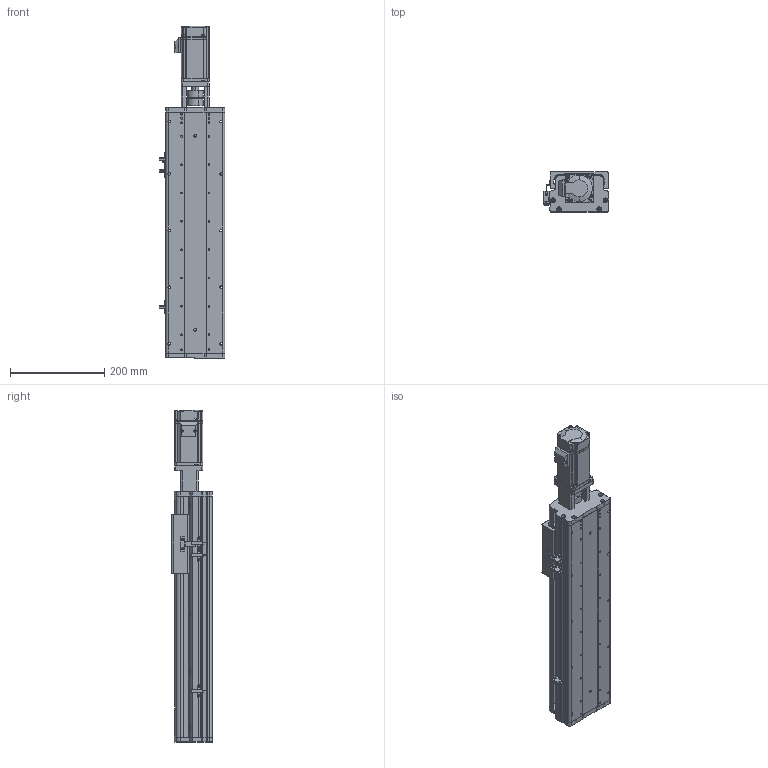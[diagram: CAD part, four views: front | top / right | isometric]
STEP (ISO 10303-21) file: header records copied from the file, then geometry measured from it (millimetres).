
FILE_DESCRIPTION (( 'STEP AP214' ), '1' );
FILE_NAME ('KSD125S-S300-MT-CM.STEP', '2017-08-07T06:37:59', ( '微软用户' ), ( '微软中国' ), 'SwSTEP 2.0', 'SolidWorks 2014', '' );
FILE_SCHEMA (( 'AUTOMOTIVE_DESIGN' ));
Length unit declared in the file: millimetre
Products named in the file (14): KSD125S-300俴最佪裝菁啣; MHMD042G1CA_2_03; 100遵鎮湛假蚾啣1 ; KSD125S-300俴最佪裝滅鳥裔; 坶踡蹟譫 梓袧; 拸萇儂釱滅袉菜; 覜茼え68遵圉猾敕; U倰嫖萇假蚾璃; U倰嫖萇EEㄜSX672; ヶ傷啣-125遵耀郪; KSD125-賑雄釱1; CS-34X32-10X14; 125-帣傷啣1; KSD125S-S300-MT-CM
Assembly tree (17 placements, depth 2):
  KSD125S-S300-MT-CM
    125-帣傷啣1
    CS-34X32-10X14
    KSD125-賑雄釱1
    ヶ傷啣-125遵耀郪
    U倰嫖萇EEㄜSX672  x3
    U倰嫖萇假蚾璃  x3
    覜茼え68遵圉猾敕
    拸萇儂釱滅袉菜
    坶踡蹟譫 梓袧
    100遵鎮湛假蚾啣1 
    MHMD042G1CA_2_03
    KSD125S-300俴最佪裝菁啣
    KSD125S-300俴最佪裝滅鳥裔
Bounding box: 138.7 x 86 x 703.5 mm (x, y, z)
Volume: 2038623 mm3; surface area: 689856.7 mm2
Topology: 16 solids, 19 shells, 1537 faces, 4402 edges, 2889 vertices
Faces by surface type: cylinder 758, plane 652, cone 105, bspline 22
Entity records: 54214 total; most frequent: CARTESIAN_POINT 11430, DIRECTION 7706, ORIENTED_EDGE 7312, EDGE_CURVE 3734, AXIS2_PLACEMENT_3D 2831, VERTEX_POINT 2481, VECTOR 2044, LINE 2044
